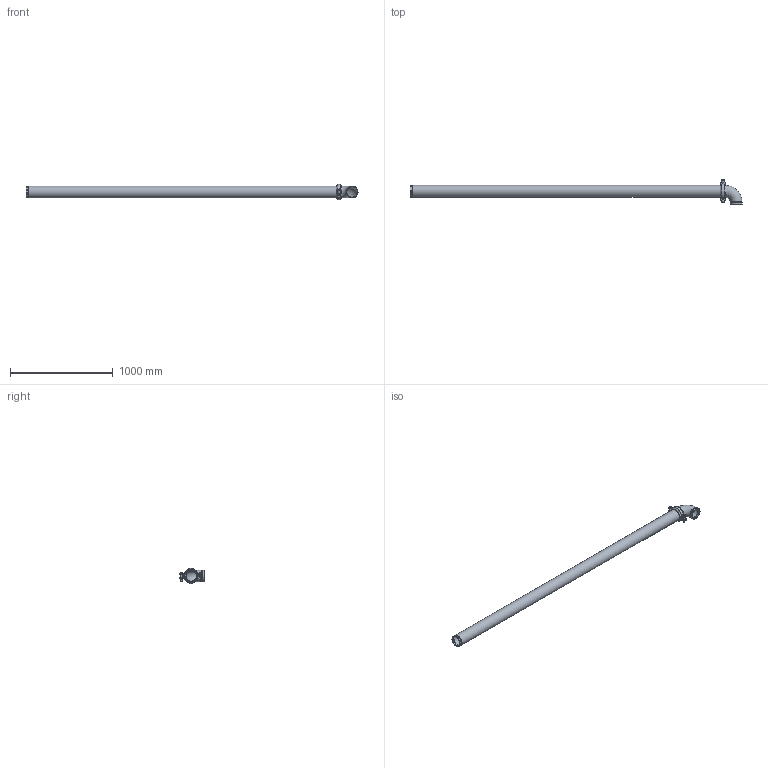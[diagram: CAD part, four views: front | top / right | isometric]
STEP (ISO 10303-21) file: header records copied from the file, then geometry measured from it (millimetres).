
FILE_DESCRIPTION(/* description */ ('VIC LONG RUN FITTING No R13 (OGS)','CAx-IF Rec.Pracs.---Representation and Presentation of Product Manufacturing Information (PMI)---4.0---2014-10-13'),/* implementation_level */ '2;1');
FILE_NAME(/* name */ 'C:\Users\Vjadhav\AppData\Roaming\Autodesk\ApplicationPlugins\Back Up\Victaulic_IPS_Long Run Fittings_No R13 (OGS)\Victaulic_IPS_Long Run Fittings_No R13 (OGS)_4 (100).stp',/* time_stamp */ '2020-10-06T18:26:37+06:00',/* author */ ('Vjadhav'),/* organization */ ('Victaulic'),/* preprocessor_version */ 'ST-DEVELOPER v17.2',/* originating_system */ 'Autodesk Inventor 2019',/* authorisation */ '');
FILE_SCHEMA (('AP242_MANAGED_MODEL_BASED_3D_ENGINEERING_MIM_LF { 1 0 10303 442 1 1 4 }'));
Length unit declared in the file: inch
Products named in the file (4): R13-04.0; 010-04.0; 107N-04.0; Pipe_R13-04.0
Assembly tree (3 placements, depth 2):
  R13-04.0
    010-04.0
    107N-04.0
    Pipe_R13-04.0
Bounding box: 3235.96 x 238.12 x 148.75 mm (x, y, z)
Volume: 7067312.5 mm3; surface area: 2308692.4 mm2
Topology: 3 solids, 3 shells, 149 faces, 383 edges, 256 vertices
Faces by surface type: plane 62, cylinder 57, bspline 16, torus 8, cone 4, sphere 2
Full cylindrical faces by diameter (mm): 12.7 x4, 22.225 x2, 101.6 x1, 102.26 x3, 110.084 x4, 114.3 x7
Entity records: 5768 total; most frequent: CARTESIAN_POINT 1731, DIRECTION 809, ORIENTED_EDGE 766, EDGE_CURVE 383, AXIS2_PLACEMENT_3D 318, VERTEX_POINT 256, EDGE_LOOP 175, LINE 173
